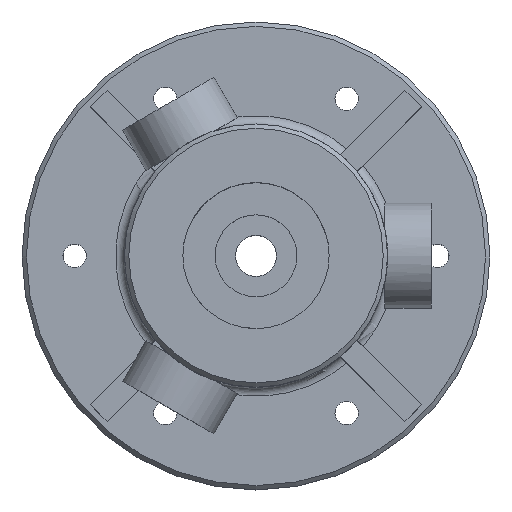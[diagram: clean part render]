
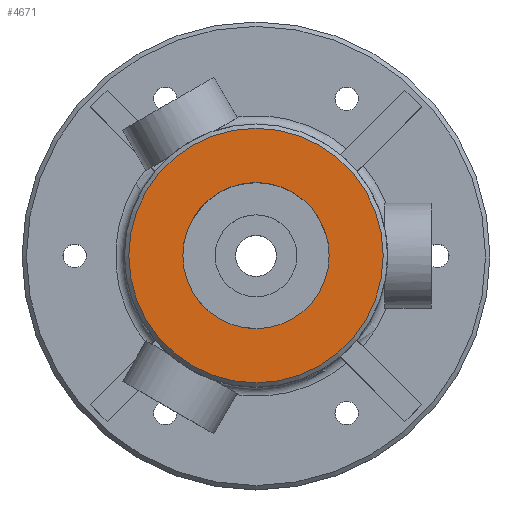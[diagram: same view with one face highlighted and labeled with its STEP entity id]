
A CAD part, top view. The second image highlights one B-rep face of the part: STEP entity #4671.
In plain terms, the highlighted planar face has unit normal (0, 0, 1).
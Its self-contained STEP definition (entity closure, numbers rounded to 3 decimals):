
#803 = CONICAL_SURFACE('',#804,45.,0.785);
#804 = AXIS2_PLACEMENT_3D('',#805,#806,#807);
#805 = CARTESIAN_POINT('',(0.,0.,88.5));
#806 = DIRECTION('',(-0.,-0.,-1.));
#807 = DIRECTION('',(1.,0.,0.));
#2301 = VERTEX_POINT('',#2302);
#2302 = CARTESIAN_POINT('',(43.5,0.,90.));
#2323 = EDGE_CURVE('',#2301,#2301,#2324,.T.);
#2324 = SURFACE_CURVE('',#2325,(#2330,#2337),.PCURVE_S1.);
#2325 = CIRCLE('',#2326,43.5);
#2326 = AXIS2_PLACEMENT_3D('',#2327,#2328,#2329);
#2327 = CARTESIAN_POINT('',(0.,0.,90.));
#2328 = DIRECTION('',(0.,0.,1.));
#2329 = DIRECTION('',(1.,0.,-0.));
#2330 = PCURVE('',#803,#2331);
#2331 = DEFINITIONAL_REPRESENTATION('',(#2332),#2336);
#2332 = LINE('',#2333,#2334);
#2333 = CARTESIAN_POINT('',(-0.,-1.5));
#2334 = VECTOR('',#2335,1.);
#2335 = DIRECTION('',(-1.,-0.));
#2336 = ( GEOMETRIC_REPRESENTATION_CONTEXT(2) 
PARAMETRIC_REPRESENTATION_CONTEXT() REPRESENTATION_CONTEXT('2D SPACE',''
  ) );
#2337 = PCURVE('',#2338,#2343);
#2338 = PLANE('',#2339);
#2339 = AXIS2_PLACEMENT_3D('',#2340,#2341,#2342);
#2340 = CARTESIAN_POINT('',(0.,0.,90.));
#2341 = DIRECTION('',(0.,0.,1.));
#2342 = DIRECTION('',(1.,0.,-0.));
#2343 = DEFINITIONAL_REPRESENTATION('',(#2344),#2348);
#2344 = CIRCLE('',#2345,43.5);
#2345 = AXIS2_PLACEMENT_2D('',#2346,#2347);
#2346 = CARTESIAN_POINT('',(0.,0.));
#2347 = DIRECTION('',(1.,0.));
#2348 = ( GEOMETRIC_REPRESENTATION_CONTEXT(2) 
PARAMETRIC_REPRESENTATION_CONTEXT() REPRESENTATION_CONTEXT('2D SPACE',''
  ) );
#4671 = ADVANCED_FACE('',(#4672,#4675),#2338,.T.);
#4672 = FACE_BOUND('',#4673,.T.);
#4673 = EDGE_LOOP('',(#4674));
#4674 = ORIENTED_EDGE('',*,*,#2323,.T.);
#4675 = FACE_BOUND('',#4676,.T.);
#4676 = EDGE_LOOP('',(#4677));
#4677 = ORIENTED_EDGE('',*,*,#4678,.F.);
#4678 = EDGE_CURVE('',#4679,#4679,#4681,.T.);
#4679 = VERTEX_POINT('',#4680);
#4680 = CARTESIAN_POINT('',(25.,0.,90.));
#4681 = SURFACE_CURVE('',#4682,(#4687,#4694),.PCURVE_S1.);
#4682 = CIRCLE('',#4683,25.);
#4683 = AXIS2_PLACEMENT_3D('',#4684,#4685,#4686);
#4684 = CARTESIAN_POINT('',(0.,0.,90.));
#4685 = DIRECTION('',(0.,0.,1.));
#4686 = DIRECTION('',(1.,0.,-0.));
#4687 = PCURVE('',#2338,#4688);
#4688 = DEFINITIONAL_REPRESENTATION('',(#4689),#4693);
#4689 = CIRCLE('',#4690,25.);
#4690 = AXIS2_PLACEMENT_2D('',#4691,#4692);
#4691 = CARTESIAN_POINT('',(0.,0.));
#4692 = DIRECTION('',(1.,0.));
#4693 = ( GEOMETRIC_REPRESENTATION_CONTEXT(2) 
PARAMETRIC_REPRESENTATION_CONTEXT() REPRESENTATION_CONTEXT('2D SPACE',''
  ) );
#4694 = PCURVE('',#4695,#4700);
#4695 = CYLINDRICAL_SURFACE('',#4696,25.);
#4696 = AXIS2_PLACEMENT_3D('',#4697,#4698,#4699);
#4697 = CARTESIAN_POINT('',(0.,0.,50.));
#4698 = DIRECTION('',(0.,0.,1.));
#4699 = DIRECTION('',(1.,0.,-0.));
#4700 = DEFINITIONAL_REPRESENTATION('',(#4701),#4705);
#4701 = LINE('',#4702,#4703);
#4702 = CARTESIAN_POINT('',(0.,40.));
#4703 = VECTOR('',#4704,1.);
#4704 = DIRECTION('',(1.,0.));
#4705 = ( GEOMETRIC_REPRESENTATION_CONTEXT(2) 
PARAMETRIC_REPRESENTATION_CONTEXT() REPRESENTATION_CONTEXT('2D SPACE',''
  ) );
